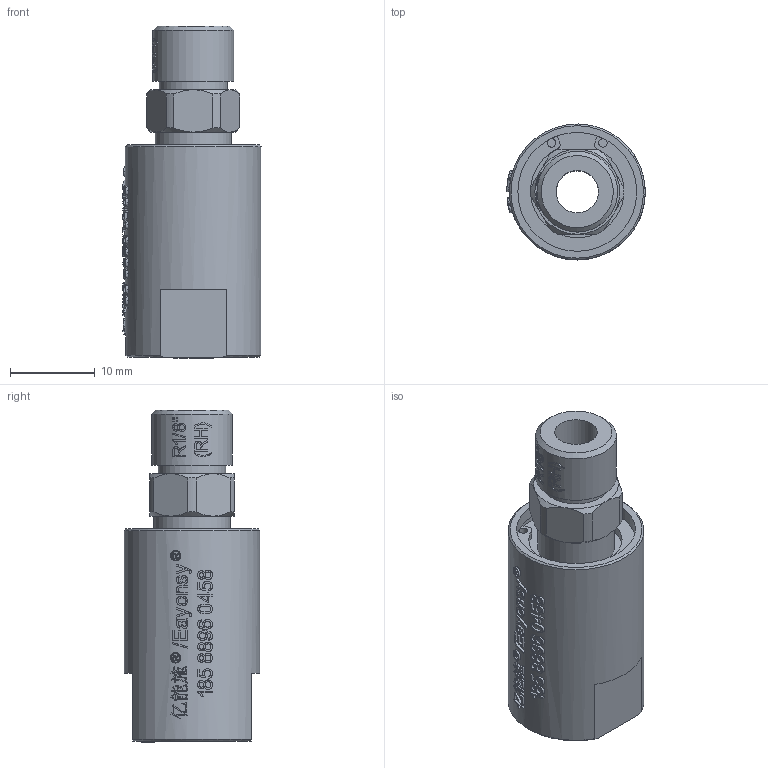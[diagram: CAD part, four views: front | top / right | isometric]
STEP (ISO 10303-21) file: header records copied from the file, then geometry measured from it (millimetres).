
FILE_DESCRIPTION(/* description */ (''),/* implementation_level */ '2;1');
FILE_NAME(/* name */ 'YYK0101(RH)-3D模型.stp',/* time_stamp */ '2025-07-09T08:19:52+08:00',/* author */ (''),/* organization */ (''),/* preprocessor_version */ 'ST-DEVELOPER v16.7',/* originating_system */ 'SIEMENS PLM Software NX 12.0',/* authorisation */ '');
FILE_SCHEMA (('AUTOMOTIVE_DESIGN { 1 0 10303 214 3 1 1 1 }'));
Products named in the file (1): Admi1300D6723v76
Bounding box: 16.3 x 16 x 39.1 mm (x, y, z)
Volume: 4753.1 mm3; surface area: 3185.7 mm2
Topology: 1 solids, 1 shells, 1112 faces, 3064 edges, 2039 vertices
Faces by surface type: extrusion 673, plane 328, cylinder 52, bspline 43, cone 16
Full cylindrical faces by diameter (mm): 1 x2, 5 x1, 8 x1, 8.5 x1, 9 x1, 9.5 x1, 14 x1, 15 x1, 16 x1
Entity records: 46317 total; most frequent: CARTESIAN_POINT 22590, ORIENTED_EDGE 6096, EDGE_CURVE 3048, B_SPLINE_CURVE_WITH_KNOTS 3042, DIRECTION 2396, VERTEX_POINT 2035, EDGE_LOOP 1211, ADVANCED_FACE 1112
